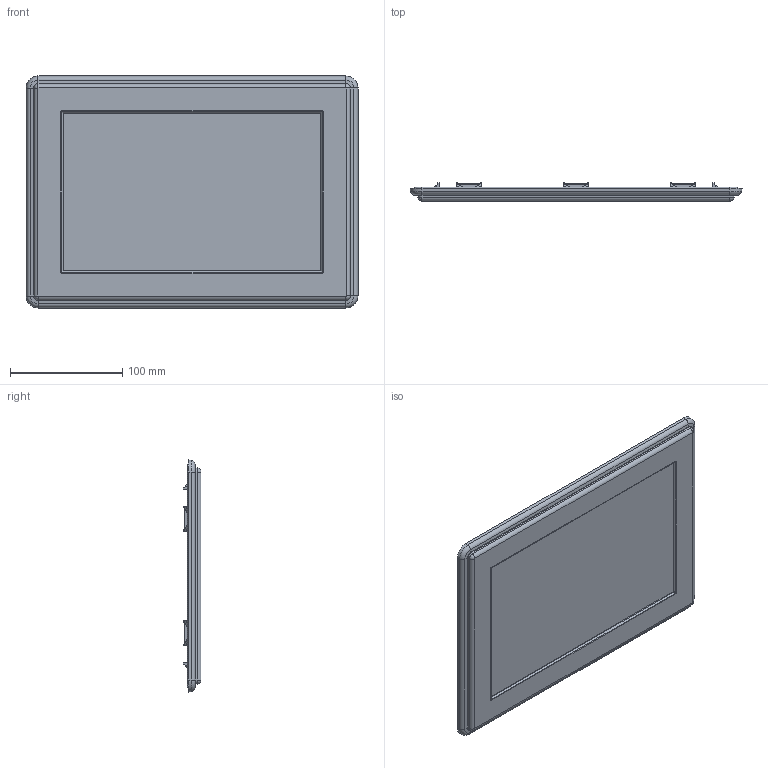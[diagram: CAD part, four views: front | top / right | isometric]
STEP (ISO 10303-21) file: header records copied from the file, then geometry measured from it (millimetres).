
FILE_DESCRIPTION (( 'STEP AP203' ), '1' );
FILE_NAME ('apwk95nfnm.STEP', '2014-08-29T19:17:53', ( 'User' ), ( 'Pentair Inc' ), 'SwSTEP 2.0', 'SolidWorks 2010', '' );
FILE_SCHEMA (( 'CONFIG_CONTROL_DESIGN' ));
Length unit declared in the file: inch
Products named in the file (3): apwk95nfnm; 89106966; 89064871_9x5.5 window
Assembly tree (2 placements, depth 2):
  apwk95nfnm
    89064871_9x5.5 window
    89106966
Bounding box: 295.15 x 15.98 x 206.25 mm (x, y, z)
Volume: 274357.6 mm3; surface area: 164052.1 mm2
Topology: 2 solids, 2 shells, 1681 faces, 3684 edges, 2022 vertices
Faces by surface type: cylinder 634, bspline 312, plane 249, sphere 222, torus 174, cone 90
Entity records: 49679 total; most frequent: CARTESIAN_POINT 14600, DIRECTION 7522, ORIENTED_EDGE 7368, EDGE_CURVE 3684, AXIS2_PLACEMENT_3D 3088, VERTEX_POINT 2022, CIRCLE 1714, EDGE_LOOP 1698
